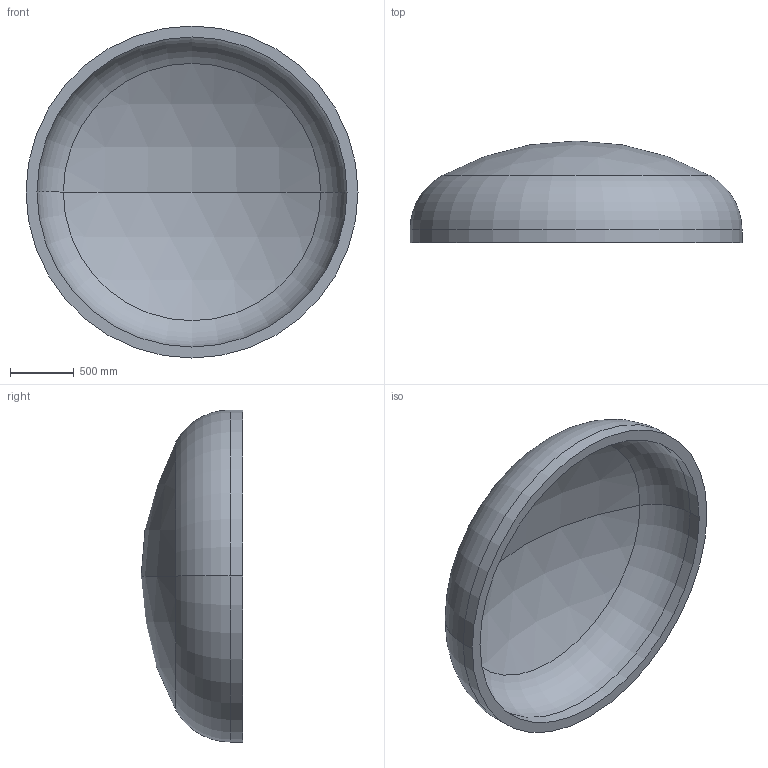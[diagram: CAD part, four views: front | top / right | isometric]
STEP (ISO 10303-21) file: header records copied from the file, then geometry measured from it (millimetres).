
FILE_DESCRIPTION (( 'STEP AP203' ), '1' );
FILE_NAME ('DIN 28013 Korbbogenform_-_Boden DIN 28013 - 2600 x 100 - I - s=86.step', '2016-07-01T16:27:17', ( '' ), ( '' ), 'SwSTEP 2.0', 'SolidWorks 2013', '' );
FILE_SCHEMA (( 'CONFIG_CONTROL_DESIGN' ));
Length unit declared in the file: millimetre
Products named in the file (1): DIN 28013 Korbbogenform_-_Boden DIN 28013 - 2600 x 100 - I - s=86
Bounding box: 2600 x 796.37 x 2600 mm (x, y, z)
Volume: 673505036.4 mm3; surface area: 16357617.9 mm2
Topology: 1 solids, 1 shells, 13 faces, 24 edges, 14 vertices
Faces by surface type: torus 4, cylinder 4, sphere 4, plane 1
Entity records: 407 total; most frequent: DIRECTION 72, CARTESIAN_POINT 52, ORIENTED_EDGE 48, AXIS2_PLACEMENT_3D 34, EDGE_CURVE 24, CIRCLE 20, EDGE_LOOP 14, VERTEX_POINT 14
